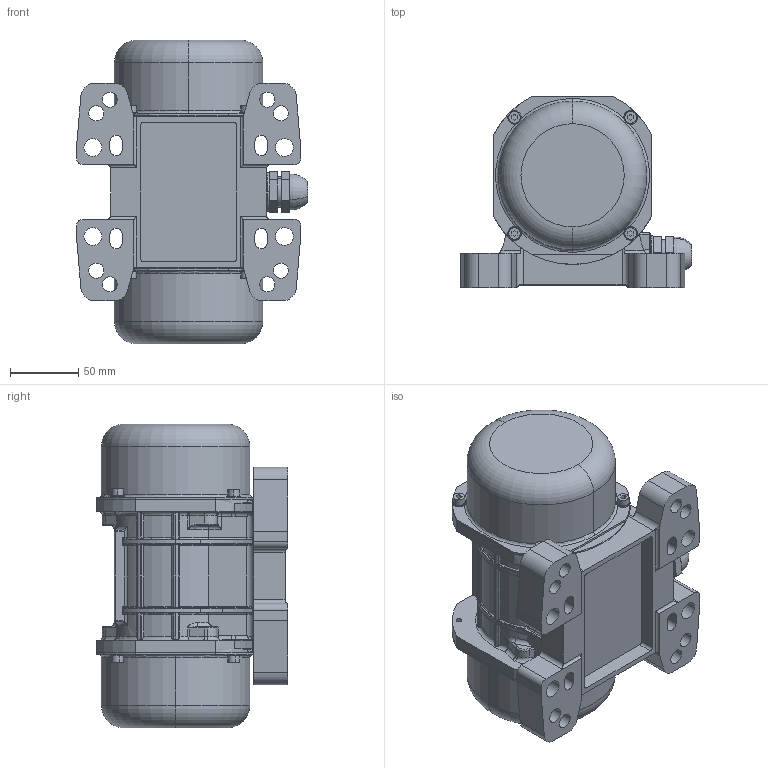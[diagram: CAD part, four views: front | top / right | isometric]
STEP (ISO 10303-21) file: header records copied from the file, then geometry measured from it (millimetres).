
FILE_DESCRIPTION (( 'STEP AP203' ), '1' );
FILE_NAME ('MVE200-3-36_MVE90-15-18-23A0.STEP', '2018-06-06T14:20:37', ( 'dma' ), ( '' ), 'SwSTEP 2.0', 'SolidWorks 2016', '' );
FILE_SCHEMA (( 'CONFIG_CONTROL_DESIGN' ));
Length unit declared in the file: millimetre
Products named in the file (1): MVE200-3-36_MVE90-15-18-23A0
Bounding box: 169 x 140 x 222 mm (x, y, z)
Volume: 2333604.3 mm3; surface area: 167916.5 mm2
Topology: 1 solids, 1 shells, 955 faces, 2410 edges, 1426 vertices
Faces by surface type: cylinder 351, plane 308, torus 137, bspline 126, sphere 25, cone 8
Entity records: 31996 total; most frequent: CARTESIAN_POINT 10140, ORIENTED_EDGE 4684, DIRECTION 4525, EDGE_CURVE 2342, AXIS2_PLACEMENT_3D 1781, VERTEX_POINT 1424, EDGE_LOOP 1022, VECTOR 963
